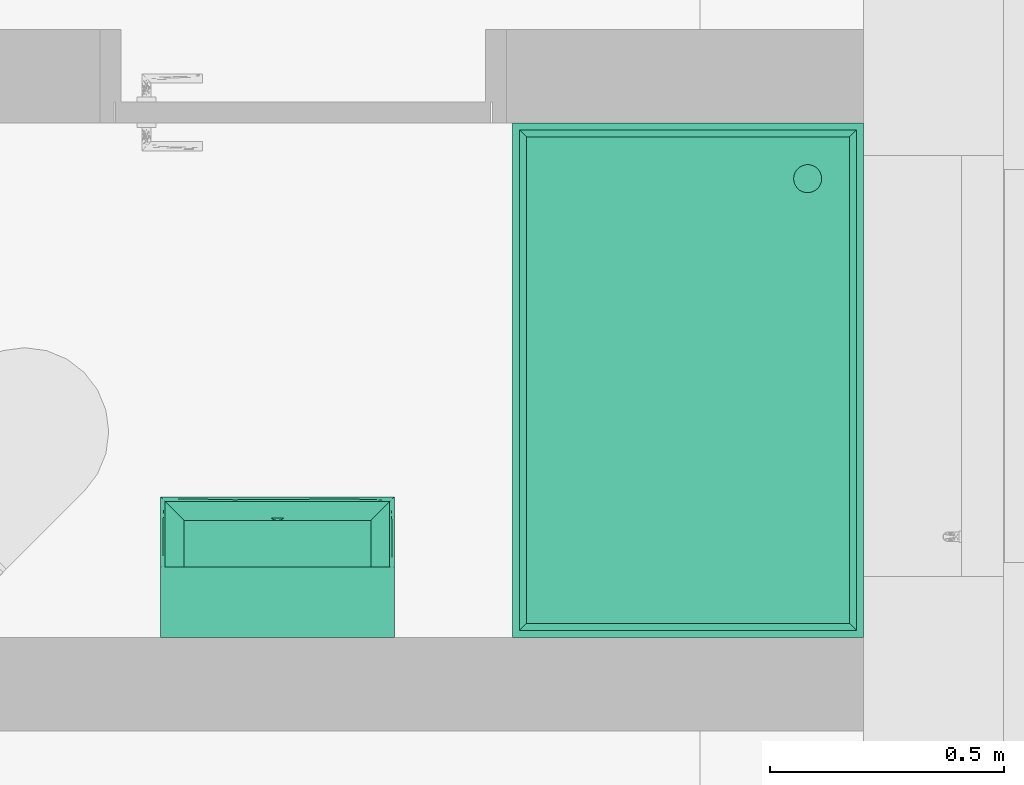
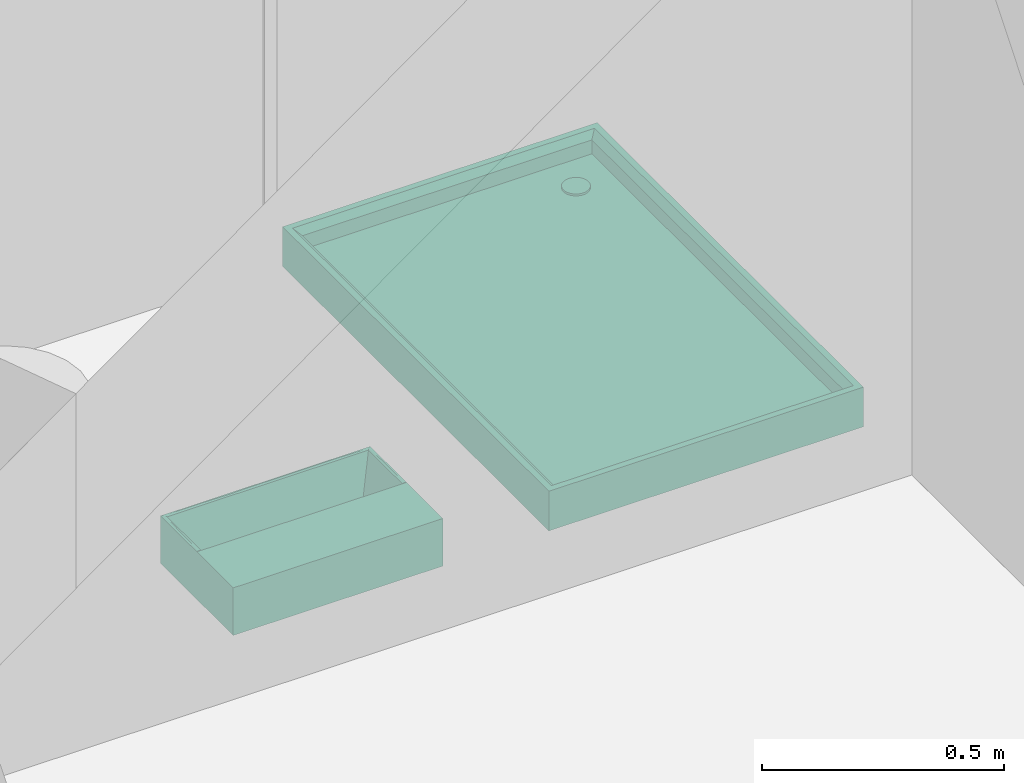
# One storey, part 22 of 22: 2 flow terminals.
"""IFC2X3 building model written with IfcOpenShell, lengths in metres."""

from ifc_helpers import new_model, entity, si_unit, converted_unit, derived_unit, direction, frame, frame_2d, origin, origin_2d_with_axis, place, context, subcontext, project, spatial, rectangle, circle, extrude, faceted_brep, source, transform, mapped, material, material_list, type_object, type_shapes, element, save


model = new_model("IFC2X3")

# Units and contexts
model_context = context("Model", 3, precision=1e-05, world=origin(), true_north=direction((6.123233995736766e-17, 1.0)))
body_context = subcontext(model_context, "Body", "Model", "MODEL_VIEW")
ifc_project = project(units=[si_unit("LENGTHUNIT", "METRE"), si_unit("AREAUNIT", "SQUARE_METRE"), si_unit("VOLUMEUNIT", "CUBIC_METRE"), si_unit("POWERUNIT", "WATT"), derived_unit("USERDEFINED", [(si_unit("MASSUNIT", "GRAM", prefix="KILO"), 1), (si_unit("TIMEUNIT", "SECOND"), -3)]), derived_unit("THERMALRESISTANCEUNIT", [(si_unit("MASSUNIT", "GRAM", prefix="KILO"), -1), (si_unit("TIMEUNIT", "SECOND"), 3), (si_unit("THERMODYNAMICTEMPERATUREUNIT", "KELVIN"), 1)]), derived_unit("USERDEFINED", [(si_unit("MASSUNIT", "GRAM", prefix="KILO"), 1), (si_unit("TIMEUNIT", "SECOND"), -2), (si_unit("THERMODYNAMICTEMPERATUREUNIT", "KELVIN"), -1)]), derived_unit("THERMALTRANSMITTANCEUNIT", [(si_unit("MASSUNIT", "GRAM", prefix="KILO"), 1), (si_unit("TIMEUNIT", "SECOND"), -3), (si_unit("THERMODYNAMICTEMPERATUREUNIT", "KELVIN"), -1)]), converted_unit("PLANEANGLEUNIT", "DEGREE", entity("IfcPlaneAngleMeasure", 0.017453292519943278), si_unit("PLANEANGLEUNIT", "RADIAN"), dimensions=[0, 0, 0, 0, 0, 0, 0]), derived_unit("MOMENTOFINERTIAUNIT", [(si_unit("LENGTHUNIT", "METRE"), 4)])], contexts=[model_context])

# Site, building, storey, space
site_placement = place(None, origin())
site = spatial("IfcSite", under=ifc_project, at=site_placement, Name="Default", CompositionType="ELEMENT")
building_placement = place(site_placement, origin())
building = spatial("IfcBuilding", under=site, at=building_placement, CompositionType="ELEMENT")
storey_placement = place(building_placement, origin())
storey = spatial("IfcBuildingStorey", under=building, at=storey_placement, Name="Untergeschoss", CompositionType="ELEMENT", Elevation=0.0)
space_placement = place(storey_placement, origin())
space = spatial("IfcSpace", under=storey, at=space_placement, Name="7", CompositionType="ELEMENT", InteriorOrExteriorSpace="INTERNAL")

# Flow terminals
ifc_material_1 = material(Name="Metall - Edelstahl satiniert")
ifc_material_2 = material(Name="Keramik - weiß 255_255_255")
ifc_material_list = material_list([ifc_material_1, ifc_material_2])
distribution_element_type_1 = type_object("IfcDistributionElementType", Name="Duschwanne 01:750x1100", material=ifc_material_list)
shared_shape_1 = source(origin(), body_context, "Body", "SolidModel", [
    extrude(circle(Radius=0.03, at=frame_2d((0.0, -5.075939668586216e-17), x_axis=(1.0, 0.0))), frame((0.11928932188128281, 0.11928932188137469, 0.049999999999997)), (0.0, 0.0, 1.0), 0.005000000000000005),
    faceted_brep([(0.030000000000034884, 1.0700000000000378, 0.04999999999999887), (0.030000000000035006, 0.030000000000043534, 0.04999999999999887), (0.7200000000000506, 0.030000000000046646, 0.04999999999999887), (0.7200000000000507, 1.0700000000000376, 0.04999999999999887), (0.7500000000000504, 1.1000000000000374, 0.0), (0.7500000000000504, 0.0, 0.0), (0.0, 0.0, 0.0), (0.0, 1.1000000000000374, 0.0), (0.0, 1.1000000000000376, 0.09999999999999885), (0.7500000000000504, 1.1000000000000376, 0.09999999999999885), (0.0, 0.0, 0.09999999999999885), (0.7500000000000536, 0.0, 0.09999999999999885), (0.03000000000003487, 1.0700000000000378, 0.08499999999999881), (0.01500000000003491, 1.0850000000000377, 0.09999999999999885), (0.015000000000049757, 0.01500000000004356, 0.09999999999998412), (0.030000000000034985, 0.030000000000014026, 0.08499999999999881), (0.7350000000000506, 0.015000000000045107, 0.09999999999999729), (0.7200000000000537, 0.03000000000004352, 0.08499999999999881), (0.7350000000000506, 1.0850000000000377, 0.09999999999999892), (0.7200000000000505, 1.0700000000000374, 0.08499999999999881)], [[[0, 1, 2, 3]], [[4, 5, 6, 7]], [[4, 7, 8, 9]], [[8, 7, 6, 10]], [[10, 6, 5, 11]], [[11, 5, 4, 9]], [[12, 13, 14, 15]], [[12, 15, 1, 0]], [[15, 14, 16, 17]], [[1, 15, 17, 2]], [[17, 16, 18, 19]], [[2, 17, 19, 3]], [[8, 10, 11, 9], [14, 13, 18, 16]], [[13, 12, 19, 18]], [[12, 0, 3, 19]]]),
])
type_shapes(distribution_element_type_1, [shared_shape_1])
flow_terminal_1_placement = place(space_placement, frame((38.07672000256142, 20.19227237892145, 0.0), z_axis=(0.0, 0.0, 1.0), x_axis=(-1.0, 0.0, 0.0)))
element("IfcFlowTerminal", 1, at=flow_terminal_1_placement, inside=space, type_object=distribution_element_type_1, material=ifc_material_list, Name="Duschwanne 01:750x1100", ObjectType="Duschwanne 01:750x1100", context=body_context, shape_type="MappedRepresentation", body=[
    mapped(shared_shape_1, transform((0.0, 0.0, 0.0), scale=1.0)),
])
distribution_element_type_2 = type_object("IfcDistributionElementType", Name="Waschbecken 08:300 x 500", material=ifc_material_list)
shared_shape_2 = source(origin(), body_context, "Body", "SolidModel", [
    extrude(circle(Radius=0.02, at=frame_2d((0.0, -2.9609648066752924e-17), x_axis=(1.0, 0.0))), frame((0.12289206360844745, 0.029999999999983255, 0.009999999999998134)), (0.0, 0.0, 1.0), 0.005000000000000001),
    extrude(rectangle(XDim=0.4000000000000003, YDim=0.10000000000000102, at=origin_2d_with_axis()), frame((0.12289206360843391, 0.10000000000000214, 0.0), z_axis=(0.0, 0.0, 1.0), x_axis=(-1.0, 0.0, 0.0)), (0.0, 0.0, 1.0), 0.01),
    faceted_brep([(-0.1271079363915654, 0.0, 0.0), (-0.1271079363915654, 0.0, 0.12000000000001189), (-0.1271079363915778, 0.05213465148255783, 0.12000000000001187), (-0.12710793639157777, 0.10426930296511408, 0.12000000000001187), (-0.12710793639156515, 0.15000000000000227, 0.12000000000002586), (-0.12710793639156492, 0.30000000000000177, 0.12000000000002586), (-0.12710793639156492, 0.30000000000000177, 0.0), (0.3728920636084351, 0.300000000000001, 0.0), (0.3728920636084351, 0.300000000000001, 0.12000000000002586), (0.3728920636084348, 0.15000000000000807, 0.12000000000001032), (0.3728920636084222, 0.10426930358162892, 0.12000000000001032), (0.3728920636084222, 0.05213465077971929, 0.12000000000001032), (0.3728920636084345, 0.0, 0.1200000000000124), (0.3728920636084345, 0.0, 0.0), (-0.11710793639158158, 0.15000000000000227, 0.12000000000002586), (0.3628920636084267, 0.1500000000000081, 0.12000000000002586), (0.13255132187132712, 0.15000000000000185, 0.092966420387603), (0.13289206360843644, 0.15000000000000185, 0.09037822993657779), (0.1315523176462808, 0.15000000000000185, 0.09537822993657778), (0.3228920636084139, 0.15000000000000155, 0.0), (0.1299631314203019, 0.15000000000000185, 0.09744929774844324), (0.12789206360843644, 0.15000000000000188, 0.09903848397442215), (0.12548025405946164, 0.15000000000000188, 0.10003748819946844), (0.12289206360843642, 0.15000000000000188, 0.10037822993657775), (0.12030387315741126, 0.15000000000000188, 0.10003748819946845), (0.11789206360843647, 0.15000000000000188, 0.09903848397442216), (0.11582099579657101, 0.15000000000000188, 0.09744929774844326), (0.11423180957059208, 0.15000000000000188, 0.0953782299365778), (0.11323280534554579, 0.15000000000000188, 0.09296642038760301), (0.11289206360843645, 0.15000000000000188, 0.09037822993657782), (-0.07710793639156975, 0.1500000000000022, 0.0), (0.12289206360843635, 0.15000000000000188, 0.08037822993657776), (0.11323280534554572, 0.15000000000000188, 0.08779003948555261), (0.11423180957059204, 0.15000000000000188, 0.0853782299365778), (0.11582099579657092, 0.15000000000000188, 0.08330716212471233), (0.11789206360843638, 0.15000000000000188, 0.0817179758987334), (0.12030387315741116, 0.15000000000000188, 0.08071897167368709), (0.12548025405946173, 0.15000000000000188, 0.08071897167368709), (0.13255132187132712, 0.15000000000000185, 0.0877900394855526), (0.13155231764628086, 0.15000000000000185, 0.08537822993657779), (0.12996313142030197, 0.15000000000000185, 0.08330716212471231), (0.1278920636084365, 0.15000000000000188, 0.08171797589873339), (0.3228920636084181, 0.05000000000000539, 0.0), (-0.07710793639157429, 0.050000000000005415, 0.0), (-0.12104885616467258, 0.14999999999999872, 0.12147051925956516), (-0.11899045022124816, 0.14999999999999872, 0.12097095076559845), (-0.1252254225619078, 0.14999999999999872, 0.12097095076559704), (-0.12316701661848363, 0.14999999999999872, 0.12147051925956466), (0.3647745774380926, 0.1500000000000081, 0.12097095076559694), (0.366832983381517, 0.1500000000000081, 0.12147051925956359), (0.36895114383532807, 0.1500000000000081, 0.1214705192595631), (0.3710095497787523, 0.1500000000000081, 0.12097095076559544), (-0.11710793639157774, 0.09786535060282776, 0.12000000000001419), (-0.11710793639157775, 0.06213464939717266, 0.12000000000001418), (-0.11710793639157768, 0.010000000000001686, 0.12000000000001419), (0.3207574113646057, 0.0, 0.12000000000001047), (0.2686227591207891, 0.0, 0.12000000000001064), (0.21648810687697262, 0.0, 0.1200000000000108), (0.16435345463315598, 0.0, 0.12000000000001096), (0.11755542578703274, 0.0, 0.12000000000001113), (0.0707574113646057, 0.0, 0.12000000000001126), (0.023959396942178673, 0.0, 0.12000000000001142), (-0.02283863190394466, 0.0, 0.12000000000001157), (-0.07497328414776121, 0.0, 0.12000000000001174), (-0.06497328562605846, 0.01000000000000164, 0.12000000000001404), (-0.031040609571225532, 0.010000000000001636, 0.12000000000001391), (0.0028920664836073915, 0.010000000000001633, 0.12000000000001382), (0.06289206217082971, 0.010000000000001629, 0.12000000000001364), (0.12289206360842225, 0.010000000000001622, 0.12000000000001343), (0.18289206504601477, 0.010000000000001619, 0.12000000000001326), (0.24289206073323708, 0.010000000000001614, 0.12000000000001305), (0.310757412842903, 0.010000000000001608, 0.12000000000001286), (0.3628920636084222, 0.010000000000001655, 0.12000000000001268), (0.3628920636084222, 0.06213465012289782, 0.12000000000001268), (0.3628920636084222, 0.09786534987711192, 0.12000000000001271), (-0.12133944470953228, 0.04335683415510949, 0.12150045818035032), (-0.12522542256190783, 0.0018825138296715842, 0.12097095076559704), (-0.12316701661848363, 0.003940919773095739, 0.12147051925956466), (-0.12210793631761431, 0.11538475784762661, 0.12153363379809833), (-0.12104885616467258, 0.006059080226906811, 0.12147051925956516), (-0.12235892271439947, 0.07999999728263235, 0.12153010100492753), (-0.11899045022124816, 0.008117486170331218, 0.12097095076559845), (0.3678920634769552, 0.11538476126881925, 0.12153363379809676), (0.36683298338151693, 0.006059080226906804, 0.12147051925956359), (0.33147291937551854, 0.00463752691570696, 0.12152626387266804), (0.36895114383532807, 0.003940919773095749, 0.1214705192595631), (-0.048006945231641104, 0.0046785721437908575, 0.12152783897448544), (0.007704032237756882, 0.00477574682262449, 0.12153081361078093), (0.04735840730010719, 0.004715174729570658, 0.12152908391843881), (0.3647745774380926, 0.008117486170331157, 0.12097095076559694), (0.09415643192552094, 0.0052587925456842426, 0.12152987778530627), (0.3710095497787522, 0.0018825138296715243, 0.12097095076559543), (0.13440662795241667, 0.00484583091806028, 0.12153230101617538), (-0.08406620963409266, 0.00585034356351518, 0.12149299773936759), (0.29469009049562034, 0.004608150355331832, 0.12152502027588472), (0.25485702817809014, 0.0049568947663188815, 0.12153352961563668), (0.21289206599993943, 0.006040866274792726, 0.12147267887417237), (0.17475564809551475, 0.004960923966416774, 0.12153354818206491), (0.3681430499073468, 0.08000000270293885, 0.12153010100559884), (0.3671235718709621, 0.043356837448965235, 0.12150045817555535), (0.13255132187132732, 0.2577905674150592, 0.0877900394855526), (0.1328920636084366, 0.2577905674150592, 0.0903782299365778), (0.13255132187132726, 0.2577905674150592, 0.092966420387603), (0.13155231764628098, 0.2577905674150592, 0.09537822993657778), (0.12996313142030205, 0.2577905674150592, 0.09744929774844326), (0.12789206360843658, 0.2577905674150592, 0.09903848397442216), (0.12548025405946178, 0.2577905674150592, 0.10003748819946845), (0.12289206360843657, 0.2577905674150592, 0.10037822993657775), (0.12030387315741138, 0.2577905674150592, 0.10003748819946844), (0.11789206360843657, 0.2577905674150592, 0.09903848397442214), (0.11582099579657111, 0.2577905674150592, 0.0974492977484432), (0.1142318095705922, 0.2577905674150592, 0.09537822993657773), (0.11323280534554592, 0.2577905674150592, 0.09296642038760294), (0.11289206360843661, 0.2577905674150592, 0.09037822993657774), (0.11323280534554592, 0.2577905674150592, 0.08779003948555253), (0.11423180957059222, 0.2577905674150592, 0.08537822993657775), (0.11582099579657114, 0.2577905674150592, 0.08330716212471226), (0.11789206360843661, 0.2577905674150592, 0.08171797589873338), (0.1203038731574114, 0.2577905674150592, 0.08071897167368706), (0.12289206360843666, 0.2577905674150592, 0.08037822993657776), (0.12548025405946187, 0.2577905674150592, 0.08071897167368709), (0.12789206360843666, 0.2577905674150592, 0.08171797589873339), (0.12996313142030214, 0.2577905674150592, 0.08330716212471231), (0.13155231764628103, 0.2577905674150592, 0.0853782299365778)], [[[0, 1, 2, 3, 4, 5, 6]], [[7, 8, 9, 10, 11, 12, 13]], [[9, 8, 5, 4, 14, 15]], [[15, 16, 17]], [[16, 15, 18]], [[15, 17, 19]], [[20, 18, 15]], [[21, 20, 15]], [[22, 21, 15]], [[15, 23, 22]], [[23, 15, 14]], [[24, 23, 14]], [[25, 24, 14]], [[14, 26, 25]], [[26, 14, 27]], [[28, 27, 14]], [[14, 29, 28]], [[29, 14, 30]], [[19, 31, 30]], [[32, 29, 30]], [[30, 33, 32]], [[33, 30, 34]], [[35, 34, 30]], [[36, 35, 30]], [[36, 30, 31]], [[37, 31, 19]], [[38, 19, 17]], [[19, 38, 39]], [[19, 39, 40]], [[40, 41, 19]], [[41, 37, 19]], [[13, 42, 19]], [[42, 13, 43]], [[19, 7, 13]], [[0, 43, 13]], [[43, 0, 30]], [[6, 30, 0]], [[7, 19, 6]], [[30, 6, 19]], [[8, 7, 6, 5]], [[44, 45, 14, 4, 46, 47]], [[15, 48, 49, 50, 51, 9]], [[30, 14, 52, 53, 54, 43]], [[0, 13, 12, 55, 56, 57, 58, 59, 60, 61, 62, 63, 1]], [[43, 54, 64, 65, 66, 67, 68, 69, 70, 71, 72, 42]], [[42, 72, 73, 74, 15, 19]], [[75, 76, 77]], [[52, 45, 78]], [[54, 53, 75]], [[46, 4, 3]], [[2, 1, 76]], [[78, 46, 3]], [[77, 79, 75]], [[3, 2, 80]], [[81, 54, 75]], [[47, 78, 44]], [[50, 49, 82]], [[45, 52, 14]], [[75, 53, 80]], [[45, 44, 78]], [[52, 80, 53]], [[52, 78, 80]], [[78, 47, 46]], [[2, 75, 80]], [[3, 80, 78]], [[81, 75, 79]], [[76, 75, 2]], [[83, 84, 85]], [[64, 86, 65]], [[66, 87, 88]], [[89, 72, 71]], [[59, 90, 60]], [[76, 1, 63]], [[55, 12, 91]], [[90, 59, 92]], [[84, 91, 85]], [[86, 93, 63]], [[84, 71, 94]], [[95, 56, 94]], [[81, 79, 93]], [[95, 57, 56]], [[89, 71, 84]], [[77, 76, 93]], [[93, 54, 81]], [[93, 86, 64]], [[56, 55, 94]], [[93, 76, 63]], [[84, 94, 55]], [[70, 95, 94]], [[70, 94, 71]], [[57, 96, 97]], [[96, 70, 69]], [[96, 95, 70]], [[90, 92, 68]], [[97, 96, 69]], [[57, 95, 96]], [[92, 69, 68]], [[57, 97, 58]], [[68, 67, 90]], [[97, 92, 58]], [[87, 61, 88]], [[60, 88, 61]], [[88, 90, 67]], [[90, 88, 60]], [[66, 88, 67]], [[87, 66, 65]], [[62, 61, 87]], [[86, 62, 87]], [[65, 86, 87]], [[63, 62, 86]], [[58, 92, 59]], [[92, 97, 69]], [[93, 64, 54]], [[93, 79, 77]], [[84, 55, 91]], [[84, 83, 89]], [[73, 98, 74]], [[89, 83, 99]], [[51, 50, 82]], [[51, 10, 9]], [[91, 12, 11]], [[11, 99, 91]], [[11, 10, 98]], [[10, 82, 98]], [[48, 15, 74]], [[99, 98, 73]], [[82, 49, 48]], [[82, 10, 51]], [[82, 74, 98]], [[11, 98, 99]], [[91, 99, 85]], [[89, 99, 72]], [[99, 83, 85]], [[82, 48, 74]], [[99, 73, 72]], [[100, 101, 102, 103, 104, 105, 106, 107, 108, 109, 110, 111, 112, 113, 114, 115, 116, 117, 118, 119, 120, 121, 122, 123]], [[23, 107, 106, 22]], [[22, 106, 105, 21]], [[18, 20, 104, 103]], [[104, 20, 21, 105]], [[16, 18, 103, 102]], [[102, 101, 17, 16]], [[17, 101, 100, 38]], [[38, 100, 123, 39]], [[41, 40, 122, 121]], [[122, 40, 39, 123]], [[37, 41, 121, 120]], [[37, 120, 119, 31]], [[31, 119, 118, 36]], [[36, 118, 117, 35]], [[33, 34, 116, 115]], [[116, 34, 35, 117]], [[32, 33, 115, 114]], [[32, 114, 113, 29]], [[112, 28, 29, 113]], [[27, 28, 112, 111]], [[24, 25, 109, 108]], [[23, 24, 108, 107]], [[26, 27, 111, 110]], [[26, 110, 109, 25]]]),
])
type_shapes(distribution_element_type_2, [shared_shape_2])
flow_terminal_2_placement = place(space_placement, frame((36.9466469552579, 19.392272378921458, 0.0), z_axis=(0.0, 0.0, 1.0), x_axis=(-1.0, 0.0, 0.0)))
element("IfcFlowTerminal", 2, at=flow_terminal_2_placement, inside=space, type_object=distribution_element_type_2, material=ifc_material_list, Name="Waschbecken 08:300 x 500", ObjectType="Waschbecken 08:300 x 500", context=body_context, shape_type="MappedRepresentation", body=[
    mapped(shared_shape_2, transform((0.0, 0.0, 0.0), scale=1.0)),
])

save(model, "model.ifc")
